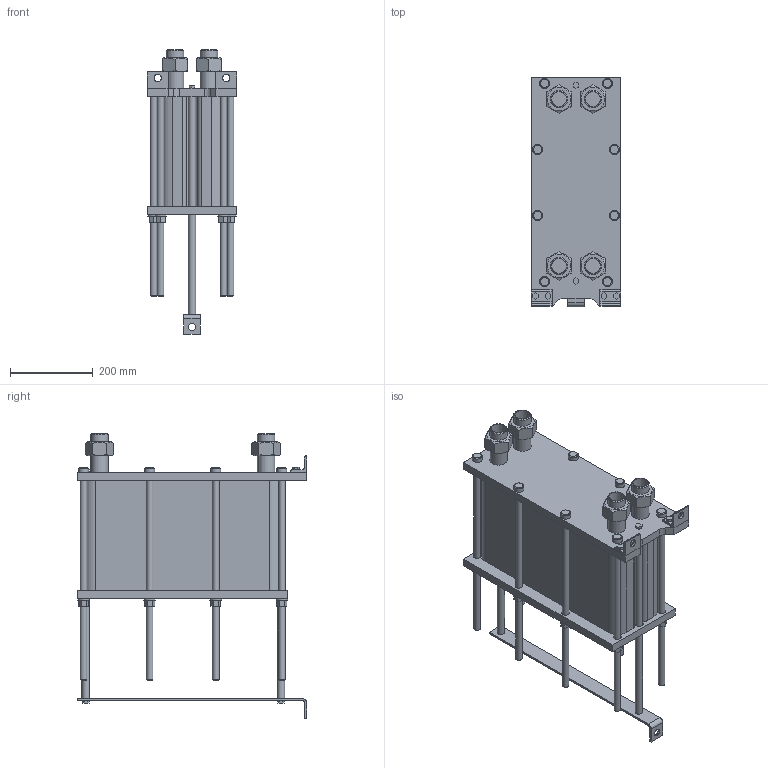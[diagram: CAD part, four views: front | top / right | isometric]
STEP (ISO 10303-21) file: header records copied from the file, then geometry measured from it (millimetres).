
FILE_DESCRIPTION(/* description */ (''),/* implementation_level */ '2;1');
FILE_NAME(/* name */ 'C:\Users\zhuro\Desktop\ENCO\TO\ЭН-004\ЭН-0,5-004-86-1.stp',/* time_stamp */ '2022-06-06T10:50:50+03:00',/* author */ ('zhuro'),/* organization */ (''),/* preprocessor_version */ 'ST-DEVELOPER v18.1',/* originating_system */ 'Autodesk Inventor 2022',/* authorisation */ '');
FILE_SCHEMA (('AUTOMOTIVE_DESIGN { 1 0 10303 214 3 1 1 }'));
Length unit declared in the file: millimetre
Products named in the file (1): ЭН-0,5-004-86-1
Bounding box: 216 x 555 x 689.8 mm (x, y, z)
Volume: 25699363.7 mm3; surface area: 1536013.3 mm2
Topology: 40 solids, 40 shells, 403 faces, 865 edges, 574 vertices
Faces by surface type: plane 272, cylinder 103, cone 28
Full cylindrical faces by diameter (mm): 10 x4, 16 x16, 18 x29, 20 x2, 24 x8, 28 x8, 36.3 x5, 42.3 x9
Entity records: 11137 total; most frequent: CARTESIAN_POINT 1939, DIRECTION 1879, ORIENTED_EDGE 1730, EDGE_CURVE 865, AXIS2_PLACEMENT_3D 658, VERTEX_POINT 574, LINE 563, VECTOR 563
